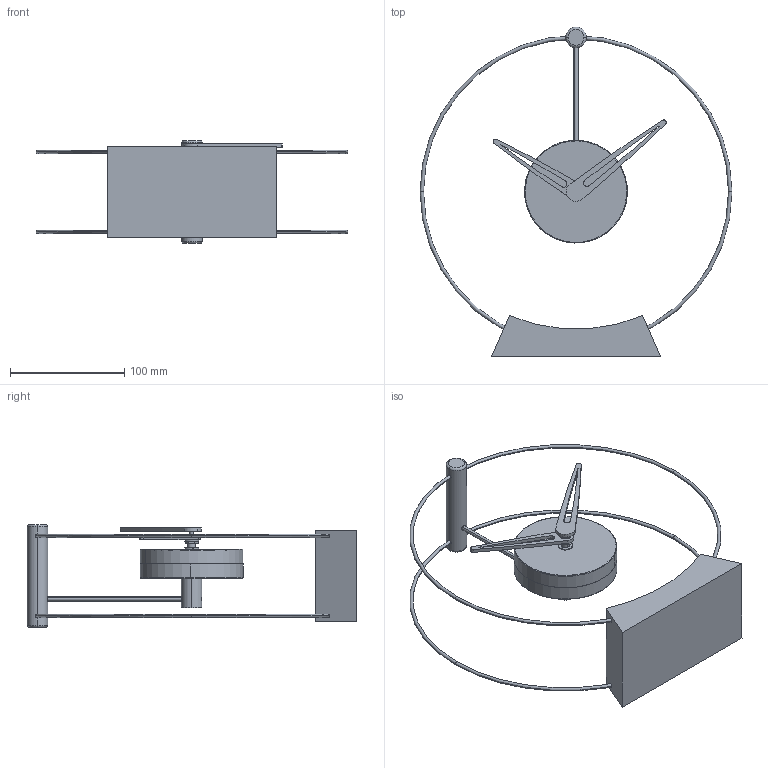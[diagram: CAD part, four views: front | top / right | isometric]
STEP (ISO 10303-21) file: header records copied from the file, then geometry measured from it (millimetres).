
FILE_DESCRIPTION (( 'STEP AP214' ), '1' );
FILE_NAME ('MINI AIRE.STEP', '2022-04-01T09:32:41', ( '' ), ( '' ), 'SwSTEP 2.0', 'SolidWorks 2016', '' );
FILE_SCHEMA (( 'AUTOMOTIVE_DESIGN' ));
Length unit declared in the file: millimetre
Products named in the file (16): TACO_FIBRAS_AIRE_OJ_REDONDEO; Mecanismo; BASE_MADERA_AIRE_PERPENDICULAR; Tuerca; VARILLA_CAJA_CENTRAL_AIRE_OJ; Tapa_inferior_caja_OJ; MINI AIRE; Arandela_caja_OJ; aguja horaria nano bcn_radio_ensamblaje; Arandela_2; Tapa_superior_caja_OJ; ECLER_MADERA_AIRE_OJ; ARO_FIBRA_Ø3MM_AIRE_OJ; Aguja_minutera_nano_bcn_radio; Aguja_horaria_nano_bcn_radio; Pasante
Assembly tree (16 placements, depth 3):
  MINI AIRE
    ARO_FIBRA_Ø3MM_AIRE_OJ  x2
    BASE_MADERA_AIRE_PERPENDICULAR
    TACO_FIBRAS_AIRE_OJ_REDONDEO
    Tapa_superior_caja_OJ
    Arandela_caja_OJ
    Mecanismo
    Tapa_inferior_caja_OJ
    VARILLA_CAJA_CENTRAL_AIRE_OJ
    ECLER_MADERA_AIRE_OJ
    Aguja_minutera_nano_bcn_radio
    aguja horaria nano bcn_radio_ensamblaje
      Aguja_horaria_nano_bcn_radio
      Pasante
      Tuerca
      Arandela_2
Bounding box: 273 x 288.59 x 90 mm (x, y, z)
Volume: 432866.7 mm3; surface area: 124303 mm2
Topology: 15 solids, 15 shells, 203 faces, 460 edges, 291 vertices
Faces by surface type: cylinder 107, plane 63, torus 24, cone 9
Entity records: 6849 total; most frequent: CARTESIAN_POINT 1484, DIRECTION 1107, ORIENTED_EDGE 904, AXIS2_PLACEMENT_3D 464, EDGE_CURVE 452, VERTEX_POINT 287, CIRCLE 245, EDGE_LOOP 235
